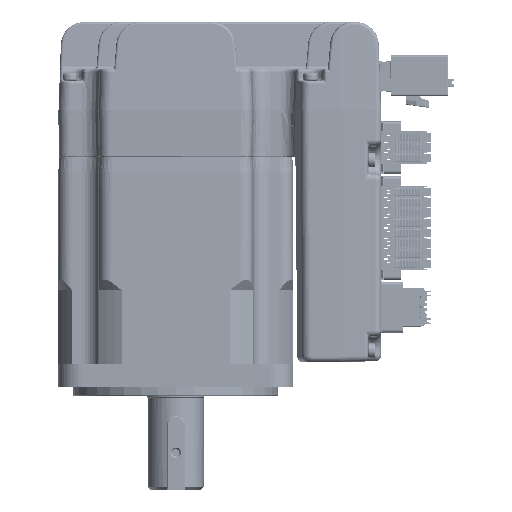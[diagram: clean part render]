
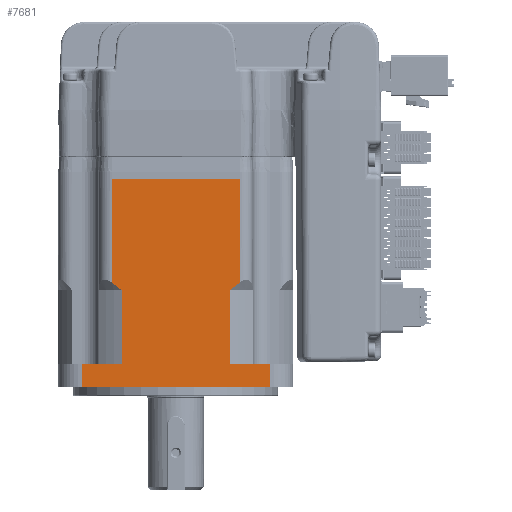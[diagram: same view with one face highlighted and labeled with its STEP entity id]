
A CAD part, left-side view. The second image highlights one B-rep face of the part: STEP entity #7681.
In plain terms, the highlighted planar face has unit normal (-1, 0, 0).
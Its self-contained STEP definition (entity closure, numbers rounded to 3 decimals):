
#1682=DIRECTION('',(0.,-1.,0.));
#1683=VECTOR('',#1682,13.67);
#1684=CARTESIAN_POINT('',(1.941,23.611,-80.1));
#1685=LINE('',#1684,#1683);
#1686=DIRECTION('',(0.,1.,0.));
#1687=VECTOR('',#1686,64.);
#1688=CARTESIAN_POINT('',(1.941,9.941,-88.1));
#1689=LINE('',#1688,#1687);
#1690=DIRECTION('',(0.,-1.,0.));
#1691=VECTOR('',#1690,13.67);
#1692=CARTESIAN_POINT('',(1.941,73.941,-80.1));
#1693=LINE('',#1692,#1691);
#1694=DIRECTION('',(0.,-1.,0.));
#1695=VECTOR('',#1694,43.5);
#1696=CARTESIAN_POINT('',(1.941,63.691,-17.1));
#1697=LINE('',#1696,#1695);
#1702=DIRECTION('',(0.,0.,1.));
#1703=VECTOR('',#1702,25.);
#1704=CARTESIAN_POINT('',(1.941,23.611,-80.1));
#1705=LINE('',#1704,#1703);
#1710=DIRECTION('',(0.,0.,1.));
#1711=VECTOR('',#1710,35.348);
#1712=CARTESIAN_POINT('',(1.941,20.191,-52.448));
#1713=LINE('',#1712,#1711);
#2320=DIRECTION('',(0.,0.,-1.));
#2321=VECTOR('',#2320,25.);
#2322=CARTESIAN_POINT('',(1.941,60.272,-55.1));
#2323=LINE('',#2322,#2321);
#2335=CARTESIAN_POINT('',(1.941,63.691,-52.448));
#2336=CARTESIAN_POINT('',(1.941,63.313,-52.762));
#2337=CARTESIAN_POINT('',(1.941,62.555,-53.376));
#2338=CARTESIAN_POINT('',(1.941,61.416,-54.26));
#2339=CARTESIAN_POINT('',(1.941,60.654,-54.824));
#2340=CARTESIAN_POINT('',(1.941,60.272,-55.1));
#2351=DIRECTION('',(0.,0.,-1.));
#2352=VECTOR('',#2351,35.348);
#2353=CARTESIAN_POINT('',(1.941,63.691,-17.1));
#2354=LINE('',#2353,#2352);
#2376=DIRECTION('',(0.,0.,-1.));
#2377=VECTOR('',#2376,8.);
#2378=CARTESIAN_POINT('',(1.941,73.941,-80.1));
#2379=LINE('',#2378,#2377);
#2524=DIRECTION('',(0.,0.,1.));
#2525=VECTOR('',#2524,8.);
#2526=CARTESIAN_POINT('',(1.941,9.941,-88.1));
#2527=LINE('',#2526,#2525);
#5664=CARTESIAN_POINT('',(1.941,23.611,-55.1));
#5665=CARTESIAN_POINT('',(1.941,23.229,-54.824));
#5666=CARTESIAN_POINT('',(1.941,22.466,-54.26));
#5667=CARTESIAN_POINT('',(1.941,21.327,-53.376));
#5668=CARTESIAN_POINT('',(1.941,20.57,-52.761));
#5669=CARTESIAN_POINT('',(1.941,20.191,-52.448));
#6349=CARTESIAN_POINT('',(1.941,9.941,-88.1));
#6350=CARTESIAN_POINT('',(1.941,73.941,-88.1));
#6351=VERTEX_POINT('',#6349);
#6352=VERTEX_POINT('',#6350);
#6381=CARTESIAN_POINT('',(1.941,23.611,-80.1));
#6382=CARTESIAN_POINT('',(1.941,23.611,-55.1));
#6383=VERTEX_POINT('',#6381);
#6384=VERTEX_POINT('',#6382);
#6385=CARTESIAN_POINT('',(1.941,9.941,-80.1));
#6386=VERTEX_POINT('',#6385);
#6387=CARTESIAN_POINT('',(1.941,73.941,-80.1));
#6388=VERTEX_POINT('',#6387);
#6389=CARTESIAN_POINT('',(1.941,60.272,-80.1));
#6390=VERTEX_POINT('',#6389);
#6391=CARTESIAN_POINT('',(1.941,60.272,-55.1));
#6392=VERTEX_POINT('',#6391);
#6393=VERTEX_POINT('',#2335);
#6394=CARTESIAN_POINT('',(1.941,63.691,-17.1));
#6395=VERTEX_POINT('',#6394);
#6396=CARTESIAN_POINT('',(1.941,20.191,-17.1));
#6397=VERTEX_POINT('',#6396);
#6398=CARTESIAN_POINT('',(1.941,20.191,-52.448));
#6399=VERTEX_POINT('',#6398);
#7651=CARTESIAN_POINT('',(1.941,81.941,-80.1));
#7652=DIRECTION('',(1.,0.,0.));
#7653=DIRECTION('',(0.,1.,0.));
#7654=AXIS2_PLACEMENT_3D('',#7651,#7652,#7653);
#7655=PLANE('',#7654);
#7657=ORIENTED_EDGE('',*,*,#7656,.F.);
#7659=ORIENTED_EDGE('',*,*,#7658,.T.);
#7661=ORIENTED_EDGE('',*,*,#7660,.F.);
#7662=ORIENTED_EDGE('',*,*,#7603,.T.);
#7664=ORIENTED_EDGE('',*,*,#7663,.F.);
#7666=ORIENTED_EDGE('',*,*,#7665,.T.);
#7668=ORIENTED_EDGE('',*,*,#7667,.F.);
#7670=ORIENTED_EDGE('',*,*,#7669,.F.);
#7672=ORIENTED_EDGE('',*,*,#7671,.F.);
#7674=ORIENTED_EDGE('',*,*,#7673,.T.);
#7676=ORIENTED_EDGE('',*,*,#7675,.F.);
#7678=ORIENTED_EDGE('',*,*,#7677,.F.);
#7679=EDGE_LOOP('',(#7657,#7659,#7661,#7662,#7664,#7666,#7668,#7670,#7672,#7674,
#7676,#7678));
#7680=FACE_OUTER_BOUND('',#7679,.F.);
#7681=ADVANCED_FACE('',(#7680),#7655,.F.);
#2341=B_SPLINE_CURVE_WITH_KNOTS('',3,(#2335,#2336,#2337,#2338,#2339,#2340),
.UNSPECIFIED.,.F.,.F.,(4,1,1,4),(0.,0.333,0.667,1.),
.UNSPECIFIED.);
#5670=B_SPLINE_CURVE_WITH_KNOTS('',3,(#5664,#5665,#5666,#5667,#5668,#5669),
.UNSPECIFIED.,.F.,.F.,(4,1,1,4),(0.,0.333,0.667,1.),
.UNSPECIFIED.);
#7603=EDGE_CURVE('',#6351,#6352,#1689,.T.);
#7656=EDGE_CURVE('',#6383,#6384,#1705,.T.);
#7658=EDGE_CURVE('',#6383,#6386,#1685,.T.);
#7660=EDGE_CURVE('',#6351,#6386,#2527,.T.);
#7663=EDGE_CURVE('',#6388,#6352,#2379,.T.);
#7665=EDGE_CURVE('',#6388,#6390,#1693,.T.);
#7667=EDGE_CURVE('',#6392,#6390,#2323,.T.);
#7669=EDGE_CURVE('',#6393,#6392,#2341,.T.);
#7671=EDGE_CURVE('',#6395,#6393,#2354,.T.);
#7673=EDGE_CURVE('',#6395,#6397,#1697,.T.);
#7675=EDGE_CURVE('',#6399,#6397,#1713,.T.);
#7677=EDGE_CURVE('',#6384,#6399,#5670,.T.);
